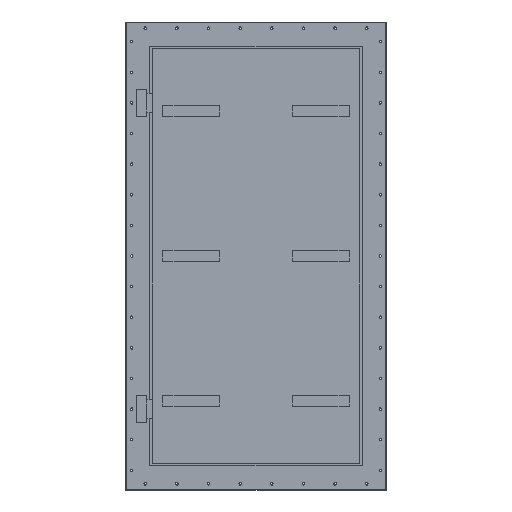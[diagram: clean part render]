
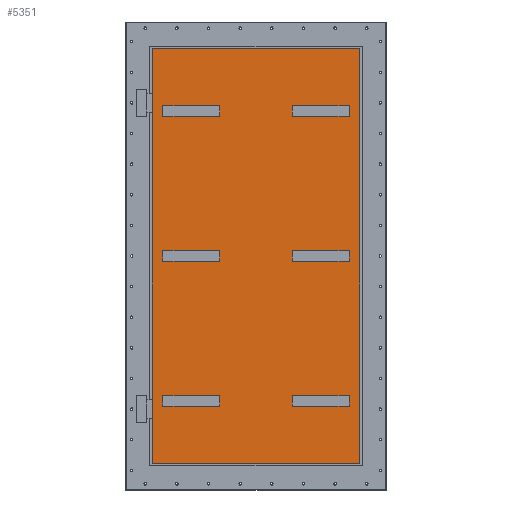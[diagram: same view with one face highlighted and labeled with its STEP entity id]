
A CAD part, top view. The second image highlights one B-rep face of the part: STEP entity #5351.
In plain terms, the highlighted planar face has unit normal (0, 0, 1).
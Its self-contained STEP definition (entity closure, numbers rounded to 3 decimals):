
#1841=DIRECTION('',(0.,-1.,0.));
#1842=VECTOR('',#1841,2002.);
#1843=CARTESIAN_POINT('',(-501.,1001.,-41.));
#1844=LINE('',#1843,#1842);
#1845=DIRECTION('',(-1.,0.,0.));
#1846=VECTOR('',#1845,1002.);
#1847=CARTESIAN_POINT('',(501.,1001.,-41.));
#1848=LINE('',#1847,#1846);
#1849=DIRECTION('',(0.,1.,0.));
#1850=VECTOR('',#1849,2002.);
#1851=CARTESIAN_POINT('',(501.,-1001.,-41.));
#1852=LINE('',#1851,#1850);
#1853=DIRECTION('',(1.,0.,0.));
#1854=VECTOR('',#1853,1002.);
#1855=CARTESIAN_POINT('',(-501.,-1001.,-41.));
#1856=LINE('',#1855,#1854);
#1857=DIRECTION('',(1.,0.,0.));
#1858=VECTOR('',#1857,275.);
#1859=CARTESIAN_POINT('',(-450.,675.,-41.));
#1860=LINE('',#1859,#1858);
#1861=DIRECTION('',(0.,1.,0.));
#1862=VECTOR('',#1861,50.);
#1863=CARTESIAN_POINT('',(-175.,675.,-41.));
#1864=LINE('',#1863,#1862);
#1865=DIRECTION('',(1.,0.,0.));
#1866=VECTOR('',#1865,275.);
#1867=CARTESIAN_POINT('',(-450.,725.,-41.));
#1868=LINE('',#1867,#1866);
#1869=DIRECTION('',(0.,1.,0.));
#1870=VECTOR('',#1869,50.);
#1871=CARTESIAN_POINT('',(-450.,675.,-41.));
#1872=LINE('',#1871,#1870);
#1873=DIRECTION('',(1.,0.,0.));
#1874=VECTOR('',#1873,275.);
#1875=CARTESIAN_POINT('',(175.,675.,-41.));
#1876=LINE('',#1875,#1874);
#1877=DIRECTION('',(0.,1.,0.));
#1878=VECTOR('',#1877,50.);
#1879=CARTESIAN_POINT('',(450.,675.,-41.));
#1880=LINE('',#1879,#1878);
#1881=DIRECTION('',(1.,0.,0.));
#1882=VECTOR('',#1881,275.);
#1883=CARTESIAN_POINT('',(175.,725.,-41.));
#1884=LINE('',#1883,#1882);
#1885=DIRECTION('',(0.,1.,0.));
#1886=VECTOR('',#1885,50.);
#1887=CARTESIAN_POINT('',(175.,675.,-41.));
#1888=LINE('',#1887,#1886);
#1889=DIRECTION('',(0.,-1.,0.));
#1890=VECTOR('',#1889,50.);
#1891=CARTESIAN_POINT('',(175.,25.,-41.));
#1892=LINE('',#1891,#1890);
#1893=DIRECTION('',(1.,0.,0.));
#1894=VECTOR('',#1893,275.);
#1895=CARTESIAN_POINT('',(175.,-25.,-41.));
#1896=LINE('',#1895,#1894);
#1897=DIRECTION('',(0.,1.,0.));
#1898=VECTOR('',#1897,50.);
#1899=CARTESIAN_POINT('',(450.,-25.,-41.));
#1900=LINE('',#1899,#1898);
#1901=DIRECTION('',(-1.,0.,0.));
#1902=VECTOR('',#1901,275.);
#1903=CARTESIAN_POINT('',(450.,25.,-41.));
#1904=LINE('',#1903,#1902);
#1905=DIRECTION('',(-1.,0.,0.));
#1906=VECTOR('',#1905,275.);
#1907=CARTESIAN_POINT('',(-175.,25.,-41.));
#1908=LINE('',#1907,#1906);
#1909=DIRECTION('',(0.,-1.,0.));
#1910=VECTOR('',#1909,50.);
#1911=CARTESIAN_POINT('',(-450.,25.,-41.));
#1912=LINE('',#1911,#1910);
#1913=DIRECTION('',(1.,0.,0.));
#1914=VECTOR('',#1913,275.);
#1915=CARTESIAN_POINT('',(-450.,-25.,-41.));
#1916=LINE('',#1915,#1914);
#1917=DIRECTION('',(0.,1.,0.));
#1918=VECTOR('',#1917,50.);
#1919=CARTESIAN_POINT('',(-175.,-25.,-41.));
#1920=LINE('',#1919,#1918);
#1921=DIRECTION('',(0.,-1.,0.));
#1922=VECTOR('',#1921,50.);
#1923=CARTESIAN_POINT('',(175.,-675.,-41.));
#1924=LINE('',#1923,#1922);
#1925=DIRECTION('',(1.,0.,0.));
#1926=VECTOR('',#1925,275.);
#1927=CARTESIAN_POINT('',(175.,-725.,-41.));
#1928=LINE('',#1927,#1926);
#1929=DIRECTION('',(0.,1.,0.));
#1930=VECTOR('',#1929,50.);
#1931=CARTESIAN_POINT('',(450.,-725.,-41.));
#1932=LINE('',#1931,#1930);
#1933=DIRECTION('',(-1.,0.,0.));
#1934=VECTOR('',#1933,275.);
#1935=CARTESIAN_POINT('',(450.,-675.,-41.));
#1936=LINE('',#1935,#1934);
#1937=DIRECTION('',(-1.,0.,0.));
#1938=VECTOR('',#1937,275.);
#1939=CARTESIAN_POINT('',(-175.,-675.,-41.));
#1940=LINE('',#1939,#1938);
#1941=DIRECTION('',(0.,-1.,0.));
#1942=VECTOR('',#1941,50.);
#1943=CARTESIAN_POINT('',(-450.,-675.,-41.));
#1944=LINE('',#1943,#1942);
#1945=DIRECTION('',(1.,0.,0.));
#1946=VECTOR('',#1945,275.);
#1947=CARTESIAN_POINT('',(-450.,-725.,-41.));
#1948=LINE('',#1947,#1946);
#1949=DIRECTION('',(0.,1.,0.));
#1950=VECTOR('',#1949,50.);
#1951=CARTESIAN_POINT('',(-175.,-725.,-41.));
#1952=LINE('',#1951,#1950);
#2785=CARTESIAN_POINT('',(-501.,1001.,-41.));
#2786=CARTESIAN_POINT('',(-501.,-1001.,-41.));
#2787=VERTEX_POINT('',#2785);
#2788=VERTEX_POINT('',#2786);
#2789=CARTESIAN_POINT('',(501.,-1001.,-41.));
#2790=VERTEX_POINT('',#2789);
#2791=CARTESIAN_POINT('',(501.,1001.,-41.));
#2792=VERTEX_POINT('',#2791);
#2913=CARTESIAN_POINT('',(-450.,675.,-41.));
#2914=CARTESIAN_POINT('',(-175.,675.,-41.));
#2915=VERTEX_POINT('',#2913);
#2916=VERTEX_POINT('',#2914);
#2917=CARTESIAN_POINT('',(175.,675.,-41.));
#2918=CARTESIAN_POINT('',(450.,675.,-41.));
#2919=VERTEX_POINT('',#2917);
#2920=VERTEX_POINT('',#2918);
#2921=CARTESIAN_POINT('',(-450.,725.,-41.));
#2922=CARTESIAN_POINT('',(-175.,725.,-41.));
#2923=VERTEX_POINT('',#2921);
#2924=VERTEX_POINT('',#2922);
#2925=CARTESIAN_POINT('',(175.,725.,-41.));
#2926=CARTESIAN_POINT('',(450.,725.,-41.));
#2927=VERTEX_POINT('',#2925);
#2928=VERTEX_POINT('',#2926);
#2977=CARTESIAN_POINT('',(175.,25.,-41.));
#2978=CARTESIAN_POINT('',(175.,-25.,-41.));
#2979=VERTEX_POINT('',#2977);
#2980=VERTEX_POINT('',#2978);
#2981=CARTESIAN_POINT('',(450.,-25.,-41.));
#2982=VERTEX_POINT('',#2981);
#2983=CARTESIAN_POINT('',(450.,25.,-41.));
#2984=VERTEX_POINT('',#2983);
#2985=CARTESIAN_POINT('',(-175.,25.,-41.));
#2986=CARTESIAN_POINT('',(-450.,25.,-41.));
#2987=VERTEX_POINT('',#2985);
#2988=VERTEX_POINT('',#2986);
#2989=CARTESIAN_POINT('',(-450.,-25.,-41.));
#2990=VERTEX_POINT('',#2989);
#2991=CARTESIAN_POINT('',(-175.,-25.,-41.));
#2992=VERTEX_POINT('',#2991);
#3041=CARTESIAN_POINT('',(175.,-675.,-41.));
#3042=CARTESIAN_POINT('',(175.,-725.,-41.));
#3043=VERTEX_POINT('',#3041);
#3044=VERTEX_POINT('',#3042);
#3045=CARTESIAN_POINT('',(450.,-725.,-41.));
#3046=VERTEX_POINT('',#3045);
#3047=CARTESIAN_POINT('',(450.,-675.,-41.));
#3048=VERTEX_POINT('',#3047);
#3049=CARTESIAN_POINT('',(-175.,-675.,-41.));
#3050=CARTESIAN_POINT('',(-450.,-675.,-41.));
#3051=VERTEX_POINT('',#3049);
#3052=VERTEX_POINT('',#3050);
#3053=CARTESIAN_POINT('',(-450.,-725.,-41.));
#3054=VERTEX_POINT('',#3053);
#3055=CARTESIAN_POINT('',(-175.,-725.,-41.));
#3056=VERTEX_POINT('',#3055);
#5280=CARTESIAN_POINT('',(0.,0.,-41.));
#5281=DIRECTION('',(0.,0.,1.));
#5282=DIRECTION('',(1.,0.,0.));
#5283=AXIS2_PLACEMENT_3D('',#5280,#5281,#5282);
#5284=PLANE('',#5283);
#5285=ORIENTED_EDGE('',*,*,#5187,.F.);
#5286=ORIENTED_EDGE('',*,*,#5227,.F.);
#5287=ORIENTED_EDGE('',*,*,#5246,.F.);
#5288=ORIENTED_EDGE('',*,*,#5266,.F.);
#5289=EDGE_LOOP('',(#5285,#5286,#5287,#5288));
#5290=FACE_OUTER_BOUND('',#5289,.F.);
#5292=ORIENTED_EDGE('',*,*,#5291,.T.);
#5294=ORIENTED_EDGE('',*,*,#5293,.T.);
#5296=ORIENTED_EDGE('',*,*,#5295,.F.);
#5298=ORIENTED_EDGE('',*,*,#5297,.F.);
#5299=EDGE_LOOP('',(#5292,#5294,#5296,#5298));
#5300=FACE_BOUND('',#5299,.F.);
#5302=ORIENTED_EDGE('',*,*,#5301,.T.);
#5304=ORIENTED_EDGE('',*,*,#5303,.T.);
#5306=ORIENTED_EDGE('',*,*,#5305,.F.);
#5308=ORIENTED_EDGE('',*,*,#5307,.F.);
#5309=EDGE_LOOP('',(#5302,#5304,#5306,#5308));
#5310=FACE_BOUND('',#5309,.F.);
#5312=ORIENTED_EDGE('',*,*,#5311,.T.);
#5314=ORIENTED_EDGE('',*,*,#5313,.T.);
#5316=ORIENTED_EDGE('',*,*,#5315,.T.);
#5318=ORIENTED_EDGE('',*,*,#5317,.T.);
#5319=EDGE_LOOP('',(#5312,#5314,#5316,#5318));
#5320=FACE_BOUND('',#5319,.F.);
#5322=ORIENTED_EDGE('',*,*,#5321,.T.);
#5324=ORIENTED_EDGE('',*,*,#5323,.T.);
#5326=ORIENTED_EDGE('',*,*,#5325,.T.);
#5328=ORIENTED_EDGE('',*,*,#5327,.T.);
#5329=EDGE_LOOP('',(#5322,#5324,#5326,#5328));
#5330=FACE_BOUND('',#5329,.F.);
#5332=ORIENTED_EDGE('',*,*,#5331,.T.);
#5334=ORIENTED_EDGE('',*,*,#5333,.T.);
#5336=ORIENTED_EDGE('',*,*,#5335,.T.);
#5338=ORIENTED_EDGE('',*,*,#5337,.T.);
#5339=EDGE_LOOP('',(#5332,#5334,#5336,#5338));
#5340=FACE_BOUND('',#5339,.F.);
#5342=ORIENTED_EDGE('',*,*,#5341,.T.);
#5344=ORIENTED_EDGE('',*,*,#5343,.T.);
#5346=ORIENTED_EDGE('',*,*,#5345,.T.);
#5348=ORIENTED_EDGE('',*,*,#5347,.T.);
#5349=EDGE_LOOP('',(#5342,#5344,#5346,#5348));
#5350=FACE_BOUND('',#5349,.F.);
#5187=EDGE_CURVE('',#2787,#2788,#1844,.T.);
#5227=EDGE_CURVE('',#2792,#2787,#1848,.T.);
#5246=EDGE_CURVE('',#2790,#2792,#1852,.T.);
#5266=EDGE_CURVE('',#2788,#2790,#1856,.T.);
#5291=EDGE_CURVE('',#2915,#2916,#1860,.T.);
#5293=EDGE_CURVE('',#2916,#2924,#1864,.T.);
#5295=EDGE_CURVE('',#2923,#2924,#1868,.T.);
#5297=EDGE_CURVE('',#2915,#2923,#1872,.T.);
#5301=EDGE_CURVE('',#2919,#2920,#1876,.T.);
#5303=EDGE_CURVE('',#2920,#2928,#1880,.T.);
#5305=EDGE_CURVE('',#2927,#2928,#1884,.T.);
#5307=EDGE_CURVE('',#2919,#2927,#1888,.T.);
#5311=EDGE_CURVE('',#2979,#2980,#1892,.T.);
#5313=EDGE_CURVE('',#2980,#2982,#1896,.T.);
#5315=EDGE_CURVE('',#2982,#2984,#1900,.T.);
#5317=EDGE_CURVE('',#2984,#2979,#1904,.T.);
#5321=EDGE_CURVE('',#2987,#2988,#1908,.T.);
#5323=EDGE_CURVE('',#2988,#2990,#1912,.T.);
#5325=EDGE_CURVE('',#2990,#2992,#1916,.T.);
#5327=EDGE_CURVE('',#2992,#2987,#1920,.T.);
#5331=EDGE_CURVE('',#3043,#3044,#1924,.T.);
#5333=EDGE_CURVE('',#3044,#3046,#1928,.T.);
#5335=EDGE_CURVE('',#3046,#3048,#1932,.T.);
#5337=EDGE_CURVE('',#3048,#3043,#1936,.T.);
#5341=EDGE_CURVE('',#3051,#3052,#1940,.T.);
#5343=EDGE_CURVE('',#3052,#3054,#1944,.T.);
#5345=EDGE_CURVE('',#3054,#3056,#1948,.T.);
#5347=EDGE_CURVE('',#3056,#3051,#1952,.T.);
#5351=ADVANCED_FACE('',(#5290,#5300,#5310,#5320,#5330,#5340,#5350),#5284,.T.);
